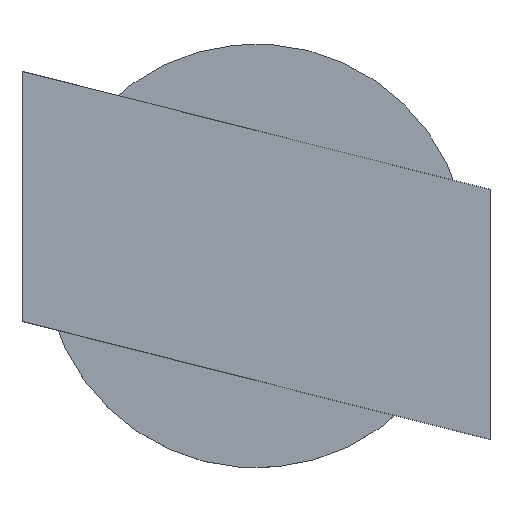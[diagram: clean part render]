
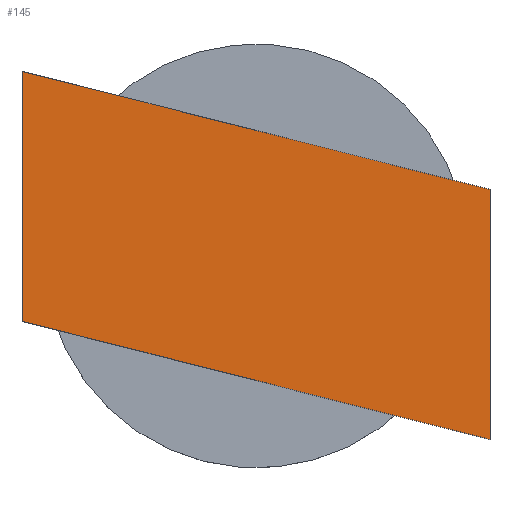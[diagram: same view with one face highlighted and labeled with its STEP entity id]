
A CAD part, top view. The second image highlights one B-rep face of the part: STEP entity #145.
In plain terms, the highlighted planar face has unit normal (0, 0, 1).
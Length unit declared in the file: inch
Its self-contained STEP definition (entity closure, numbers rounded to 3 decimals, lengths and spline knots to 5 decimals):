
#5=DIRECTION('',(0.,1.,0.));
#6=VECTOR('',#5,0.41564);
#7=CARTESIAN_POINT('',(0.389,-0.306,0.2));
#8=LINE('',#7,#6);
#9=DIRECTION('',(0.97,-0.245,0.));
#10=VECTOR('',#9,0.8024);
#11=CARTESIAN_POINT('',(-0.389,-0.10964,0.2));
#12=LINE('',#11,#10);
#13=DIRECTION('',(0.,-1.,0.));
#14=VECTOR('',#13,0.41564);
#15=CARTESIAN_POINT('',(-0.389,0.306,0.2));
#16=LINE('',#15,#14);
#17=DIRECTION('',(-0.97,0.245,0.));
#18=VECTOR('',#17,0.8024);
#19=CARTESIAN_POINT('',(0.389,0.10964,0.2));
#20=LINE('',#19,#18);
#81=CARTESIAN_POINT('',(0.389,-0.306,0.2));
#82=CARTESIAN_POINT('',(0.389,0.10964,0.2));
#83=VERTEX_POINT('',#81);
#84=VERTEX_POINT('',#82);
#94=CARTESIAN_POINT('',(-0.389,0.306,0.2));
#96=VERTEX_POINT('',#94);
#99=CARTESIAN_POINT('',(-0.389,-0.10964,0.2));
#100=VERTEX_POINT('',#99);
#132=CARTESIAN_POINT('',(0.,0.,0.2));
#133=DIRECTION('',(0.,0.,1.));
#134=DIRECTION('',(1.,0.,0.));
#135=AXIS2_PLACEMENT_3D('',#132,#133,#134);
#136=PLANE('',#135);
#137=ORIENTED_EDGE('',*,*,#108,.F.);
#138=ORIENTED_EDGE('',*,*,#122,.F.);
#140=ORIENTED_EDGE('',*,*,#139,.F.);
#142=ORIENTED_EDGE('',*,*,#141,.F.);
#143=EDGE_LOOP('',(#137,#138,#140,#142));
#144=FACE_OUTER_BOUND('',#143,.F.);
#108=EDGE_CURVE('',#83,#84,#8,.T.);
#122=EDGE_CURVE('',#100,#83,#12,.T.);
#139=EDGE_CURVE('',#96,#100,#16,.T.);
#141=EDGE_CURVE('',#84,#96,#20,.T.);
#145=ADVANCED_FACE('',(#144),#136,.T.);
